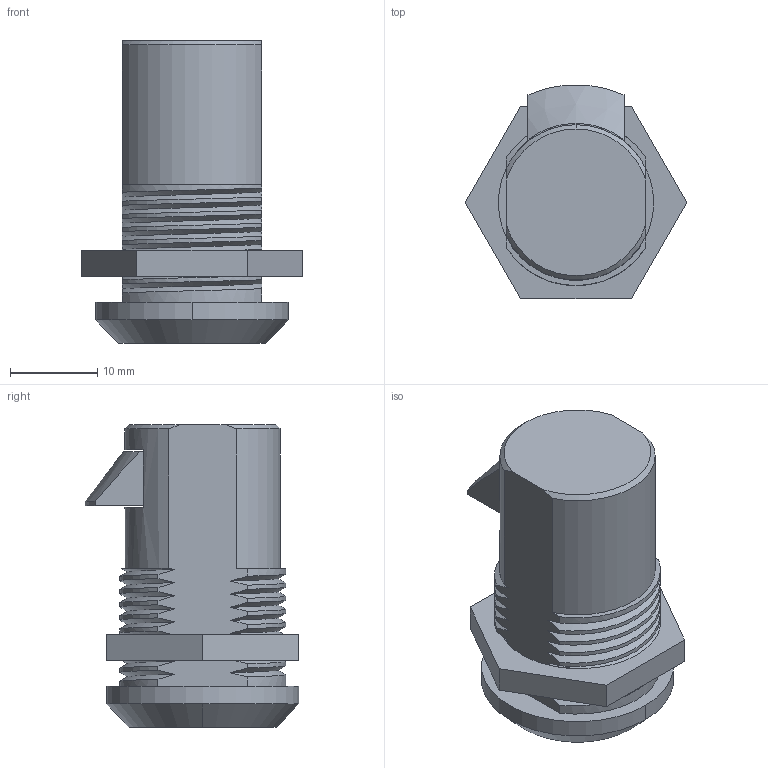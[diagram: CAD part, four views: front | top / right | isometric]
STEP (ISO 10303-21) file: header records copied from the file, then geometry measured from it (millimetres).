
FILE_DESCRIPTION (( 'STEP AP214' ), '1' );
FILE_NAME ('2.612.001.STEP', '2016-09-08T11:12:52', ( '' ), ( '' ), 'SwSTEP 2.0', 'SolidWorks 2015', '' );
FILE_SCHEMA (( 'AUTOMOTIVE_DESIGN' ));
Length unit declared in the file: millimetre
Products named in the file (1): 2.612.001
Bounding box: 25.4 x 24.45 x 34.7 mm (x, y, z)
Volume: 9427.4 mm3; surface area: 4237.6 mm2
Topology: 1 solids, 1 shells, 126 faces, 375 edges, 250 vertices
Faces by surface type: cylinder 44, plane 42, bspline 34, cone 6
Entity records: 15239 total; most frequent: CARTESIAN_POINT 10777, ORIENTED_EDGE 750, DIRECTION 519, EDGE_CURVE 375, VERTEX_POINT 250, AXIS2_PLACEMENT_3D 186, VECTOR 147, LINE 147
